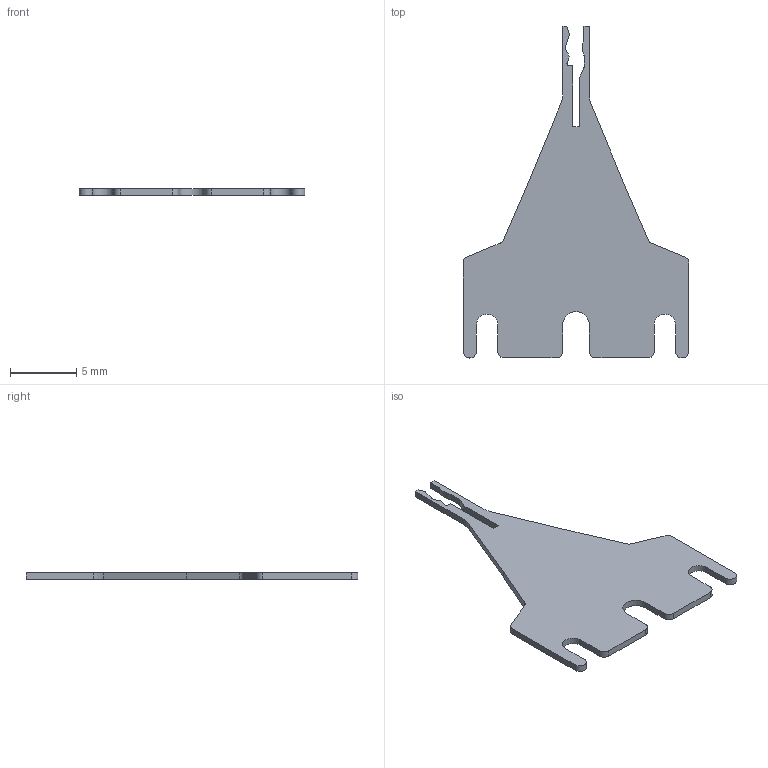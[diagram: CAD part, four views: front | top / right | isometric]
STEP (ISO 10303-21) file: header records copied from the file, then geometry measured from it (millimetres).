
FILE_DESCRIPTION (( 'STEP AP214' ), '1' );
FILE_NAME ('YGPU-P03 峚標ヵ-諦誧換菰.STEP', '2026-03-27T00:53:20', ( '' ), ( '' ), 'SwSTEP 2.0', 'SolidWorks 2022', '' );
FILE_SCHEMA (( 'AUTOMOTIVE_DESIGN' ));
Length unit declared in the file: millimetre
Products named in the file (1): YGPU-P03 微夹钳-客户传递
Bounding box: 17 x 25 x 0.5 mm (x, y, z)
Volume: 101.1 mm3; surface area: 457.2 mm2
Topology: 1 solids, 1 shells, 58 faces, 168 edges, 112 vertices
Faces by surface type: plane 35, cylinder 23
Entity records: 1952 total; most frequent: CARTESIAN_POINT 339, ORIENTED_EDGE 336, DIRECTION 332, EDGE_CURVE 168, LINE 122, VECTOR 122, VERTEX_POINT 112, AXIS2_PLACEMENT_3D 105
